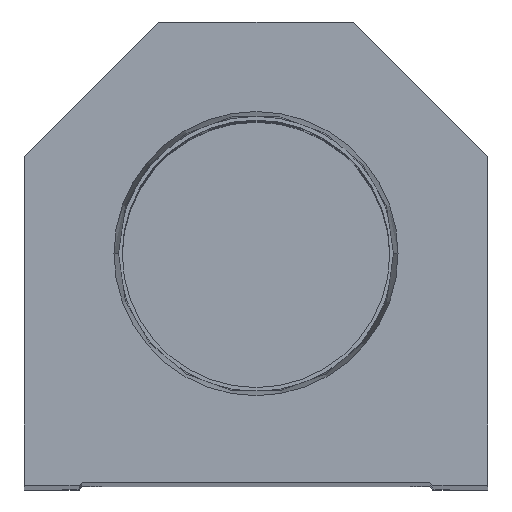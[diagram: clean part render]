
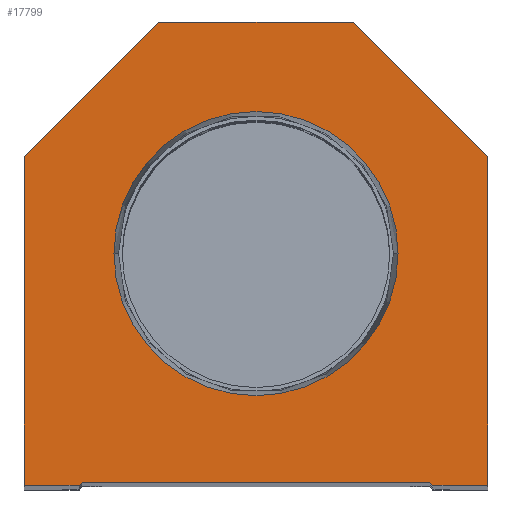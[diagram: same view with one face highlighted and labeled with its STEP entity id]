
A CAD part, top view. The second image highlights one B-rep face of the part: STEP entity #17799.
In plain terms, the highlighted planar face has unit normal (0, 0, 1).
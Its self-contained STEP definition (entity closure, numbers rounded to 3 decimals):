
#102 = VERTEX_POINT ( 'NONE', #13570 ) ;
#663 = FACE_BOUND ( 'NONE', #8624, .T. ) ;
#871 = DIRECTION ( 'NONE',  ( 0., -1., 0. ) ) ;
#1951 = ORIENTED_EDGE ( 'NONE', *, *, #24433, .T. ) ;
#2052 = CARTESIAN_POINT ( 'NONE',  ( 0., 38.1, 0. ) ) ;
#2100 = EDGE_CURVE ( 'NONE', #18724, #102, #6991, .T. ) ;
#2255 = EDGE_CURVE ( 'NONE', #25060, #19812, #10964, .T. ) ;
#2330 = VECTOR ( 'NONE', #9795, 1000. ) ;
#2641 = AXIS2_PLACEMENT_3D ( 'NONE', #23324, #27366, #25279 ) ;
#3312 = CARTESIAN_POINT ( 'NONE',  ( -23.374, 38.1, 0. ) ) ;
#3688 = EDGE_CURVE ( 'NONE', #20888, #4628, #27457, .T. ) ;
#3985 = DIRECTION ( 'NONE',  ( 1., 0., 0. ) ) ;
#4553 = ORIENTED_EDGE ( 'NONE', *, *, #4898, .T. ) ;
#4628 = VERTEX_POINT ( 'NONE', #3312 ) ;
#4898 = EDGE_CURVE ( 'NONE', #10198, #18993, #27009, .T. ) ;
#5439 = CARTESIAN_POINT ( 'NONE',  ( 38.1, 54.1, 0. ) ) ;
#6226 = EDGE_CURVE ( 'NONE', #11442, #25293, #7226, .T. ) ;
#6526 = VERTEX_POINT ( 'NONE', #11563 ) ;
#6550 = VECTOR ( 'NONE', #871, 1000. ) ;
#6991 = LINE ( 'NONE', #13357, #7120 ) ;
#7120 = VECTOR ( 'NONE', #26283, 1000. ) ;
#7226 = LINE ( 'NONE', #21925, #6550 ) ;
#8400 = ORIENTED_EDGE ( 'NONE', *, *, #15767, .T. ) ;
#8536 = CARTESIAN_POINT ( 'NONE',  ( -38.1, 54.1, 0. ) ) ;
#8624 = EDGE_LOOP ( 'NONE', ( #24081, #16488 ) ) ;
#8896 = LINE ( 'NONE', #25941, #24986 ) ;
#9397 = CARTESIAN_POINT ( 'NONE',  ( 16., 76.2, 0. ) ) ;
#9580 = LINE ( 'NONE', #5439, #18011 ) ;
#9630 = CARTESIAN_POINT ( 'NONE',  ( -38.1, 0., 0. ) ) ;
#9795 = DIRECTION ( 'NONE',  ( 1., 0., 0. ) ) ;
#9849 = DIRECTION ( 'NONE',  ( -0.707, 0.707, 0. ) ) ;
#10198 = VERTEX_POINT ( 'NONE', #9397 ) ;
#10326 = AXIS2_PLACEMENT_3D ( 'NONE', #2052, #25078, #3985 ) ;
#10753 = CIRCLE ( 'NONE', #10326, 23.374 ) ;
#10826 = DIRECTION ( 'NONE',  ( 0.707, 0.707, 0. ) ) ;
#10964 = LINE ( 'NONE', #19439, #19954 ) ;
#11010 = PLANE ( 'NONE',  #24141 ) ;
#11225 = DIRECTION ( 'NONE',  ( 1., 0., 0. ) ) ;
#11442 = VERTEX_POINT ( 'NONE', #8536 ) ;
#11487 = ORIENTED_EDGE ( 'NONE', *, *, #15800, .T. ) ;
#11563 = CARTESIAN_POINT ( 'NONE',  ( 28.6, 0.5, 0. ) ) ;
#11873 = CARTESIAN_POINT ( 'NONE',  ( -28.6, 0.5, 0. ) ) ;
#12840 = CARTESIAN_POINT ( 'NONE',  ( 28.6, 0., 0. ) ) ;
#13231 = FACE_OUTER_BOUND ( 'NONE', #25758, .T. ) ;
#13357 = CARTESIAN_POINT ( 'NONE',  ( 38.1, 0., 0. ) ) ;
#13570 = CARTESIAN_POINT ( 'NONE',  ( 38.1, 54.1, 0. ) ) ;
#14284 = LINE ( 'NONE', #16640, #22067 ) ;
#14336 = CARTESIAN_POINT ( 'NONE',  ( 16., 76.2, 0. ) ) ;
#14764 = LINE ( 'NONE', #12840, #27202 ) ;
#15139 = VECTOR ( 'NONE', #24666, 1000. ) ;
#15767 = EDGE_CURVE ( 'NONE', #19812, #6526, #27154, .T. ) ;
#15800 = EDGE_CURVE ( 'NONE', #6526, #23693, #18258, .T. ) ;
#16488 = ORIENTED_EDGE ( 'NONE', *, *, #19302, .F. ) ;
#16640 = CARTESIAN_POINT ( 'NONE',  ( -38.1, 54.1, 0. ) ) ;
#17259 = DIRECTION ( 'NONE',  ( 0., 0., 1. ) ) ;
#17799 = ADVANCED_FACE ( 'NONE', ( #663, #13231 ), #11010, .T. ) ;
#18011 = VECTOR ( 'NONE', #9849, 1000. ) ;
#18220 = EDGE_CURVE ( 'NONE', #25293, #25060, #8896, .T. ) ;
#18258 = LINE ( 'NONE', #20869, #15139 ) ;
#18315 = ORIENTED_EDGE ( 'NONE', *, *, #21812, .T. ) ;
#18338 = CARTESIAN_POINT ( 'NONE',  ( 23.374, 38.1, 0. ) ) ;
#18488 = ORIENTED_EDGE ( 'NONE', *, *, #2100, .T. ) ;
#18662 = DIRECTION ( 'NONE',  ( -1., 0., 0. ) ) ;
#18724 = VERTEX_POINT ( 'NONE', #24067 ) ;
#18854 = ORIENTED_EDGE ( 'NONE', *, *, #2255, .T. ) ;
#18993 = VERTEX_POINT ( 'NONE', #24438 ) ;
#19302 = EDGE_CURVE ( 'NONE', #4628, #20888, #10753, .T. ) ;
#19439 = CARTESIAN_POINT ( 'NONE',  ( -14.55, 14.55, 0. ) ) ;
#19812 = VERTEX_POINT ( 'NONE', #11873 ) ;
#19917 = EDGE_CURVE ( 'NONE', #23693, #18724, #14764, .T. ) ;
#19954 = VECTOR ( 'NONE', #10826, 1000. ) ;
#20545 = DIRECTION ( 'NONE',  ( -0.707, -0.707, 0. ) ) ;
#20869 = CARTESIAN_POINT ( 'NONE',  ( 14.55, 14.55, 0. ) ) ;
#20888 = VERTEX_POINT ( 'NONE', #18338 ) ;
#21574 = CARTESIAN_POINT ( 'NONE',  ( 0., 0., 0. ) ) ;
#21812 = EDGE_CURVE ( 'NONE', #102, #10198, #9580, .T. ) ;
#21925 = CARTESIAN_POINT ( 'NONE',  ( -38.1, 0., 0. ) ) ;
#22063 = ORIENTED_EDGE ( 'NONE', *, *, #18220, .T. ) ;
#22067 = VECTOR ( 'NONE', #20545, 1000. ) ;
#22415 = VECTOR ( 'NONE', #18662, 1000. ) ;
#23324 = CARTESIAN_POINT ( 'NONE',  ( 0., 38.1, 0. ) ) ;
#23446 = ORIENTED_EDGE ( 'NONE', *, *, #6226, .T. ) ;
#23559 = DIRECTION ( 'NONE',  ( 1., 0., 0. ) ) ;
#23693 = VERTEX_POINT ( 'NONE', #26404 ) ;
#24067 = CARTESIAN_POINT ( 'NONE',  ( 38.1, 0., 0. ) ) ;
#24081 = ORIENTED_EDGE ( 'NONE', *, *, #3688, .F. ) ;
#24141 = AXIS2_PLACEMENT_3D ( 'NONE', #21574, #17259, #25744 ) ;
#24343 = ORIENTED_EDGE ( 'NONE', *, *, #19917, .T. ) ;
#24433 = EDGE_CURVE ( 'NONE', #18993, #11442, #14284, .T. ) ;
#24438 = CARTESIAN_POINT ( 'NONE',  ( -16., 76.2, 0. ) ) ;
#24666 = DIRECTION ( 'NONE',  ( 0.707, -0.707, 0. ) ) ;
#24986 = VECTOR ( 'NONE', #11225, 1000. ) ;
#25060 = VERTEX_POINT ( 'NONE', #27292 ) ;
#25078 = DIRECTION ( 'NONE',  ( 0., 0., 1. ) ) ;
#25279 = DIRECTION ( 'NONE',  ( 1., 0., 0. ) ) ;
#25293 = VERTEX_POINT ( 'NONE', #9630 ) ;
#25744 = DIRECTION ( 'NONE',  ( 1., 0., 0. ) ) ;
#25758 = EDGE_LOOP ( 'NONE', ( #22063, #18854, #8400, #11487, #24343, #18488, #18315, #4553, #1951, #23446 ) ) ;
#25941 = CARTESIAN_POINT ( 'NONE',  ( -28.6, 0., 0. ) ) ;
#26283 = DIRECTION ( 'NONE',  ( 0., 1., 0. ) ) ;
#26404 = CARTESIAN_POINT ( 'NONE',  ( 29.1, 0., 0. ) ) ;
#26606 = CARTESIAN_POINT ( 'NONE',  ( -28.6, 0.5, 0. ) ) ;
#27009 = LINE ( 'NONE', #14336, #22415 ) ;
#27154 = LINE ( 'NONE', #26606, #2330 ) ;
#27202 = VECTOR ( 'NONE', #23559, 1000. ) ;
#27292 = CARTESIAN_POINT ( 'NONE',  ( -29.1, 0., 0. ) ) ;
#27366 = DIRECTION ( 'NONE',  ( 0., 0., 1. ) ) ;
#27457 = CIRCLE ( 'NONE', #2641, 23.374 ) ;
